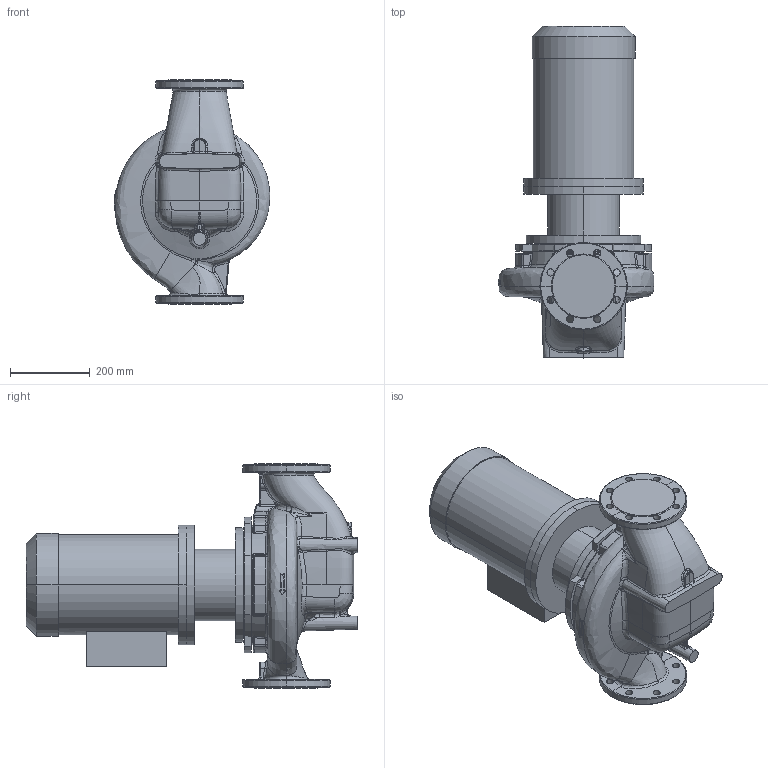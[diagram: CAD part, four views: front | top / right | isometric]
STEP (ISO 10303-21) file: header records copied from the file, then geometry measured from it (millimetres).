
FILE_DESCRIPTION (( 'STEP AP203' ), '1' );
FILE_NAME ('KRL 100-250-4-5,5.STEP', '2026-04-03T08:40:58', ( '' ), ( '' ), 'SwSTEP 2.0', 'SolidWorks 2016', '' );
FILE_SCHEMA (( 'CONFIG_CONTROL_DESIGN' ));
Length unit declared in the file: millimetre
Products named in the file (1): KRL 100-250-4-5,5
Bounding box: 391.58 x 834.8 x 565 mm (x, y, z)
Volume: 53343847.9 mm3; surface area: 1774253.2 mm2
Topology: 8 solids, 8 shells, 657 faces, 1563 edges, 928 vertices
Faces by surface type: bspline 313, cylinder 149, plane 110, cone 37, torus 26, sphere 22
Entity records: 60627 total; most frequent: CARTESIAN_POINT 48055, ORIENTED_EDGE 3094, DIRECTION 1907, EDGE_CURVE 1547, VERTEX_POINT 926, AXIS2_PLACEMENT_3D 818, B_SPLINE_CURVE_WITH_KNOTS 732, EDGE_LOOP 709
